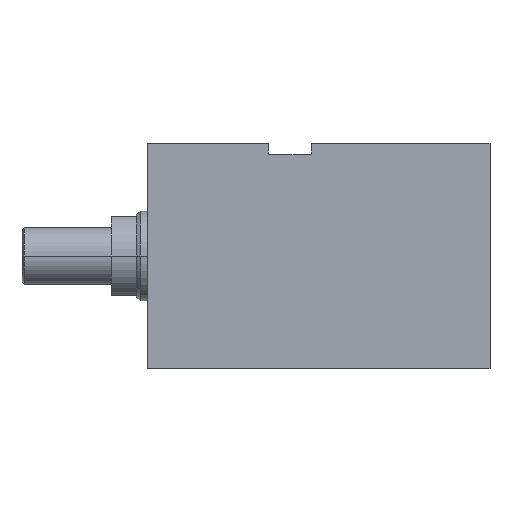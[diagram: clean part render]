
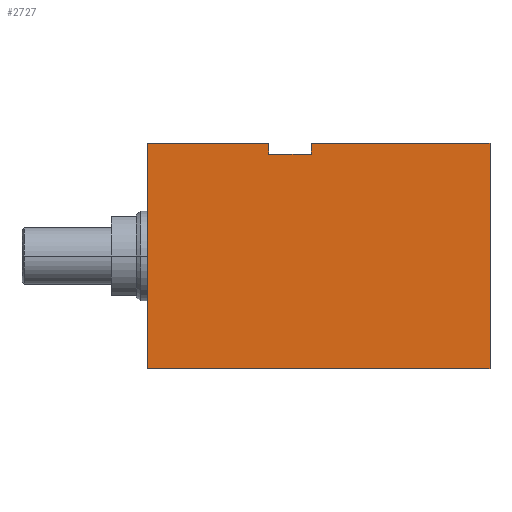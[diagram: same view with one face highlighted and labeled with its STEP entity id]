
A CAD part, left-side view. The second image highlights one B-rep face of the part: STEP entity #2727.
In plain terms, the highlighted planar face has unit normal (-1, 0, 0).
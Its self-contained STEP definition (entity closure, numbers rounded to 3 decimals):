
#106 = CARTESIAN_POINT ( 'NONE',  ( -42.5, 71., -31.5 ) ) ;
#125 = PLANE ( 'NONE',  #1708 ) ;
#152 = EDGE_CURVE ( 'NONE', #2672, #1727, #1301, .T. ) ;
#175 = ORIENTED_EDGE ( 'NONE', *, *, #152, .F. ) ;
#195 = DIRECTION ( 'NONE',  ( 1., 0., 0. ) ) ;
#220 = EDGE_CURVE ( 'NONE', #1550, #2379, #1126, .T. ) ;
#270 = DIRECTION ( 'NONE',  ( 0., 0., -1. ) ) ;
#338 = VECTOR ( 'NONE', #2468, 1000. ) ;
#355 = CARTESIAN_POINT ( 'NONE',  ( -42.5, 50., 31.5 ) ) ;
#379 = CARTESIAN_POINT ( 'NONE',  ( -42.5, 0., -31.5 ) ) ;
#442 = LINE ( 'NONE', #1059, #338 ) ;
#444 = CARTESIAN_POINT ( 'NONE',  ( -42.5, 0., -31.5 ) ) ;
#456 = CARTESIAN_POINT ( 'NONE',  ( -42.5, 71., -31.5 ) ) ;
#467 = DIRECTION ( 'NONE',  ( 0., -1., 0. ) ) ;
#533 = VERTEX_POINT ( 'NONE', #355 ) ;
#635 = CARTESIAN_POINT ( 'NONE',  ( -42.5, 62., 28.5 ) ) ;
#828 = ORIENTED_EDGE ( 'NONE', *, *, #1195, .F. ) ;
#843 = VECTOR ( 'NONE', #1774, 1000. ) ;
#848 = LINE ( 'NONE', #1234, #843 ) ;
#927 = VECTOR ( 'NONE', #2068, 1000. ) ;
#1059 = CARTESIAN_POINT ( 'NONE',  ( -42.5, 62., 28.5 ) ) ;
#1108 = LINE ( 'NONE', #456, #1144 ) ;
#1116 = VECTOR ( 'NONE', #1678, 1000. ) ;
#1126 = LINE ( 'NONE', #635, #1116 ) ;
#1143 = CARTESIAN_POINT ( 'NONE',  ( -42.5, 50., 28.5 ) ) ;
#1144 = VECTOR ( 'NONE', #467, 1000. ) ;
#1160 = DIRECTION ( 'NONE',  ( 0., 0., 1. ) ) ;
#1195 = EDGE_CURVE ( 'NONE', #1874, #2672, #2636, .T. ) ;
#1234 = CARTESIAN_POINT ( 'NONE',  ( -42.5, 71., 31.5 ) ) ;
#1289 = VECTOR ( 'NONE', #2748, 1000. ) ;
#1296 = CARTESIAN_POINT ( 'NONE',  ( -42.5, 62., 28.5 ) ) ;
#1301 = LINE ( 'NONE', #2739, #1289 ) ;
#1327 = CARTESIAN_POINT ( 'NONE',  ( -42.5, 62., 31.5 ) ) ;
#1411 = DIRECTION ( 'NONE',  ( 0., 0., 1. ) ) ;
#1482 = CARTESIAN_POINT ( 'NONE',  ( -42.5, 50., 28.5 ) ) ;
#1538 = EDGE_CURVE ( 'NONE', #2379, #533, #1622, .T. ) ;
#1542 = ORIENTED_EDGE ( 'NONE', *, *, #2000, .T. ) ;
#1550 = VERTEX_POINT ( 'NONE', #1296 ) ;
#1581 = VECTOR ( 'NONE', #1411, 1000. ) ;
#1622 = LINE ( 'NONE', #1143, #1581 ) ;
#1678 = DIRECTION ( 'NONE',  ( 0., -1., 0. ) ) ;
#1708 = AXIS2_PLACEMENT_3D ( 'NONE', #106, #195, #270 ) ;
#1727 = VERTEX_POINT ( 'NONE', #1327 ) ;
#1734 = EDGE_LOOP ( 'NONE', ( #1828, #1996, #2919, #1542, #175, #828, #2245, #2130 ) ) ;
#1774 = DIRECTION ( 'NONE',  ( 0., -1., 0. ) ) ;
#1790 = EDGE_CURVE ( 'NONE', #533, #1865, #848, .T. ) ;
#1828 = ORIENTED_EDGE ( 'NONE', *, *, #1790, .F. ) ;
#1854 = CARTESIAN_POINT ( 'NONE',  ( -42.5, 96., 31.5 ) ) ;
#1856 = CARTESIAN_POINT ( 'NONE',  ( -42.5, 96., -31.5 ) ) ;
#1864 = FACE_OUTER_BOUND ( 'NONE', #1734, .T. ) ;
#1865 = VERTEX_POINT ( 'NONE', #2473 ) ;
#1874 = VERTEX_POINT ( 'NONE', #1856 ) ;
#1991 = VERTEX_POINT ( 'NONE', #444 ) ;
#1996 = ORIENTED_EDGE ( 'NONE', *, *, #1538, .F. ) ;
#2000 = EDGE_CURVE ( 'NONE', #1550, #1727, #442, .T. ) ;
#2068 = DIRECTION ( 'NONE',  ( 0., 0., 1. ) ) ;
#2130 = ORIENTED_EDGE ( 'NONE', *, *, #2597, .T. ) ;
#2143 = CARTESIAN_POINT ( 'NONE',  ( -42.5, 96., -31.5 ) ) ;
#2245 = ORIENTED_EDGE ( 'NONE', *, *, #2881, .T. ) ;
#2379 = VERTEX_POINT ( 'NONE', #1482 ) ;
#2468 = DIRECTION ( 'NONE',  ( 0., 0., 1. ) ) ;
#2473 = CARTESIAN_POINT ( 'NONE',  ( -42.5, 0., 31.5 ) ) ;
#2558 = LINE ( 'NONE', #379, #927 ) ;
#2597 = EDGE_CURVE ( 'NONE', #1991, #1865, #2558, .T. ) ;
#2605 = VECTOR ( 'NONE', #1160, 1000. ) ;
#2636 = LINE ( 'NONE', #2143, #2605 ) ;
#2672 = VERTEX_POINT ( 'NONE', #1854 ) ;
#2727 = ADVANCED_FACE ( 'NONE', ( #1864 ), #125, .F. ) ;
#2739 = CARTESIAN_POINT ( 'NONE',  ( -42.5, 71., 31.5 ) ) ;
#2748 = DIRECTION ( 'NONE',  ( 0., -1., 0. ) ) ;
#2881 = EDGE_CURVE ( 'NONE', #1874, #1991, #1108, .T. ) ;
#2919 = ORIENTED_EDGE ( 'NONE', *, *, #220, .F. ) ;
